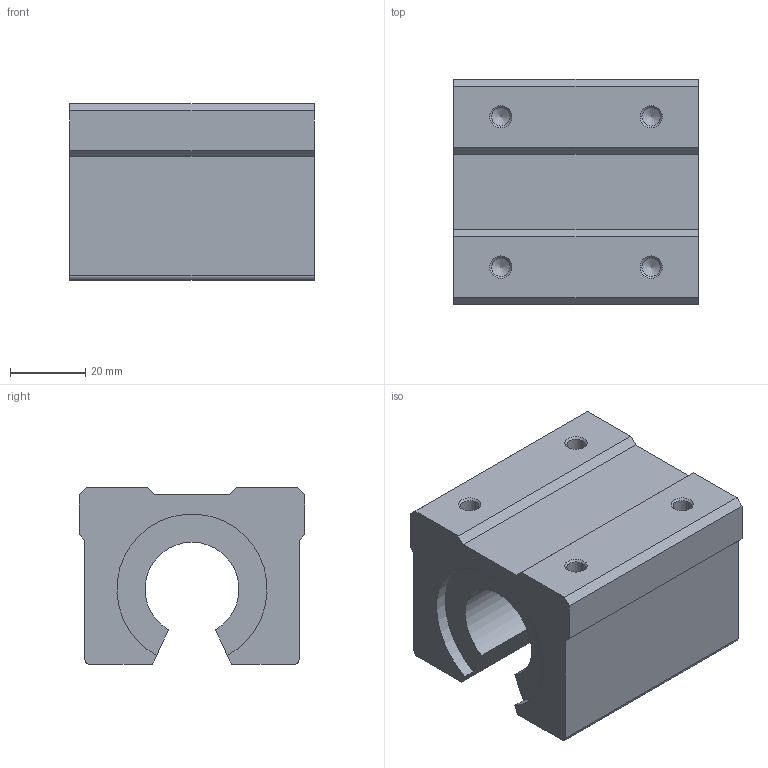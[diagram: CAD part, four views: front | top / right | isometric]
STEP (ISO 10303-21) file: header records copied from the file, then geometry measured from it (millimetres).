
FILE_DESCRIPTION( ( 'Unknown' ), '1' );
FILE_NAME( 'D:/累诀/己绕皋墨飘肺葱胶/11-04-06_档搁累己/01_府聪绢何教/SSBR/SBR25SA.stp', 'Unknown', ( 'Unknown' ), ( 'Unknown' ), 'PSStep 11.0', 'Unknown', ' ' );
FILE_SCHEMA( ( 'AUTOMOTIVE_DESIGN { 1 0 10303 214 1 1 1 1 }' ) );
Length unit declared in the file: millimetre
Products named in the file (1): SBR__
Bounding box: 65 x 60 x 47 mm (x, y, z)
Volume: 127417.8 mm3; surface area: 23062.8 mm2
Topology: 1 solids, 1 shells, 42 faces, 112 edges, 72 vertices
Faces by surface type: plane 21, cylinder 13, cone 8
Full cylindrical faces by diameter (mm): 4.917 x8
Entity records: 1514 total; most frequent: DIRECTION 200, CARTESIAN_POINT 199, ORIENTED_EDGE 176, EDGE_CURVE 88, AXIS2_PLACEMENT_3D 69, VERTEX_POINT 68, LINE 62, VECTOR 62
